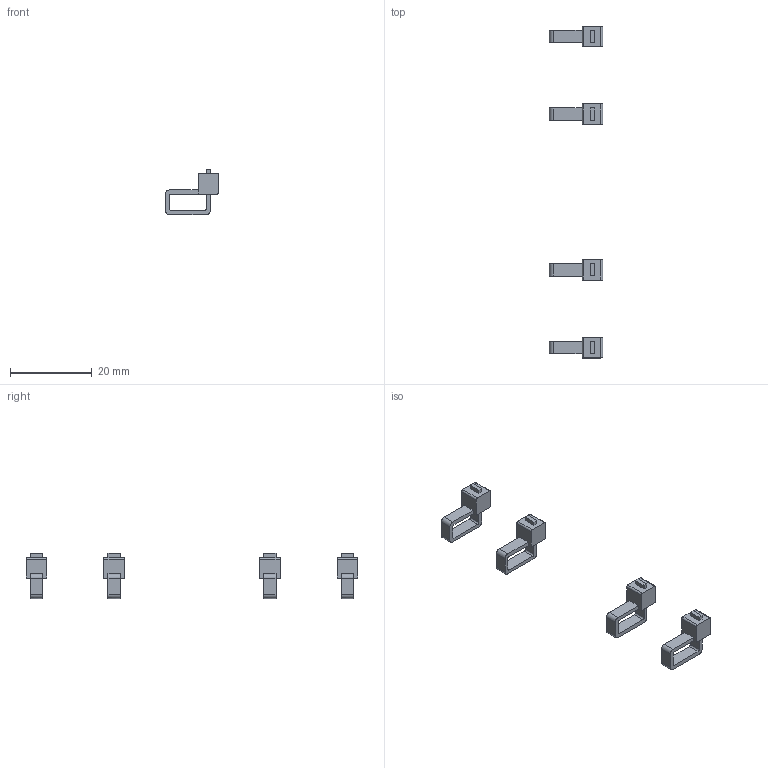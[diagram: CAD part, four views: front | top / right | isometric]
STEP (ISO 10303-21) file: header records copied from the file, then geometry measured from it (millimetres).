
FILE_DESCRIPTION(/* description */ (''),/* implementation_level */ '2;1');
FILE_NAME(/* name */ '6.y-drive#6.16#la-zip',/* time_stamp */ '2014-12-01T20:17:17+01:00',/* author */ (''),/* organization */ (''),/* preprocessor_version */ 'ST-DEVELOPER v14',/* originating_system */ '',/* authorisation */ '');
FILE_SCHEMA (('AUTOMOTIVE_DESIGN'));
Length unit declared in the file: millimetre
Products named in the file (1): Document
Bounding box: 13 x 81 x 11 mm (x, y, z)
Volume: 827.5 mm3; surface area: 1434.9 mm2
Topology: 4 solids, 4 shells, 120 faces, 328 edges, 216 vertices
Faces by surface type: bspline 96, plane 24
Entity records: 7029 total; most frequent: CARTESIAN_POINT 3218, ORIENTED_EDGE 656, PCURVE 656, DEFINITIONAL_REPRESENTATION 656, B_SPLINE_CURVE_WITH_KNOTS 456, SURFACE_CURVE 328, EDGE_CURVE 328, VERTEX_POINT 216
